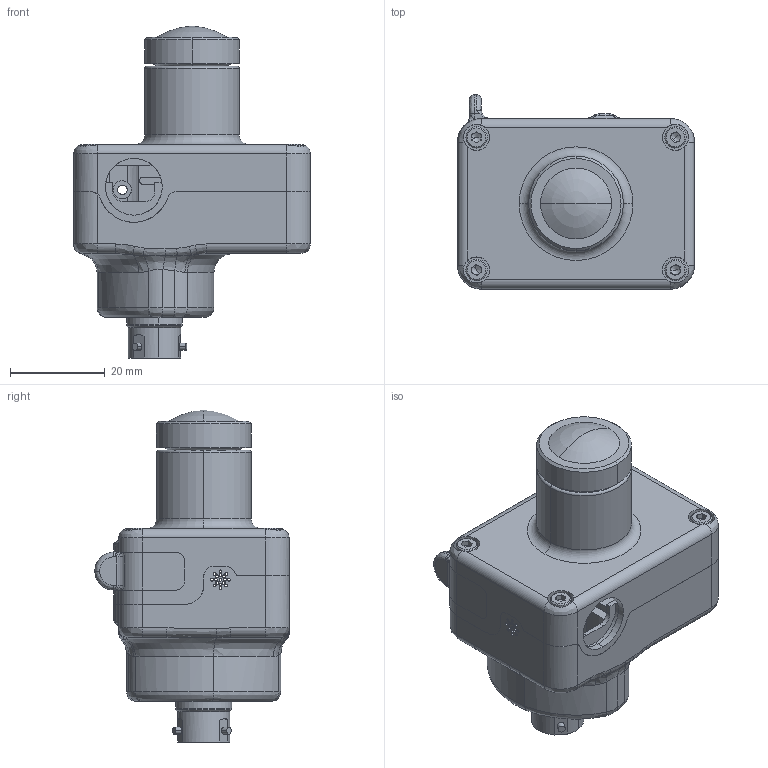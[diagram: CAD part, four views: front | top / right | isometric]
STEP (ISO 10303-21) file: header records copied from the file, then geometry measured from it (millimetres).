
FILE_DESCRIPTION (( 'STEP AP214' ), '1' );
FILE_NAME ('vcs_2016.STEP', '2016-11-08T08:10:25', ( '' ), ( '' ), 'SwSTEP 2.0', 'SolidWorks 2012', '' );
FILE_SCHEMA (( 'AUTOMOTIVE_DESIGN' ));
Length unit declared in the file: millimetre
Products named in the file (14): spacefiller; 03-01-05B; cross countersunk head screw_as_AS-NZS 1023 CC- M2 x 4-N; socket head cap screw_am_B18.3.1M - 2.5 x 0.45 x 4 Hex SHCS -- 4NHX; SealAs_Prod; 03-01-03B-Stella; DP020-012_hingepin; completePCB; DSL377A; rear_pcb; AS006-05SN-HE_PCB; 03-01-02C-Stella; 03-01-01C-Stella; vcs_2016
Assembly tree (17 placements, depth 4):
  vcs_2016
    03-01-01C-Stella
    03-01-02C-Stella
    completePCB
      rear_pcb
        AS006-05SN-HE_PCB
      DSL377A
    DP020-012_hingepin
    03-01-03B-Stella
    SealAs_Prod
    socket head cap screw_am_B18.3.1M - 2.5 x 0.45 x 4 Hex SHCS -- 4NHX  x4
    cross countersunk head screw_as_AS-NZS 1023 CC- M2 x 4-N  x2
    03-01-05B
    spacefiller
Bounding box: 50 x 41.01 x 70.07 mm (x, y, z)
Volume: 17471.7 mm3; surface area: 26039.1 mm2
Topology: 15 solids, 17 shells, 1077 faces, 2837 edges, 1796 vertices
Faces by surface type: cylinder 451, plane 439, bspline 97, cone 68, torus 22
Entity records: 35126 total; most frequent: CARTESIAN_POINT 9635, ORIENTED_EDGE 5092, DIRECTION 5065, EDGE_CURVE 2547, AXIS2_PLACEMENT_3D 1886, VERTEX_POINT 1643, VECTOR 1293, LINE 1293
